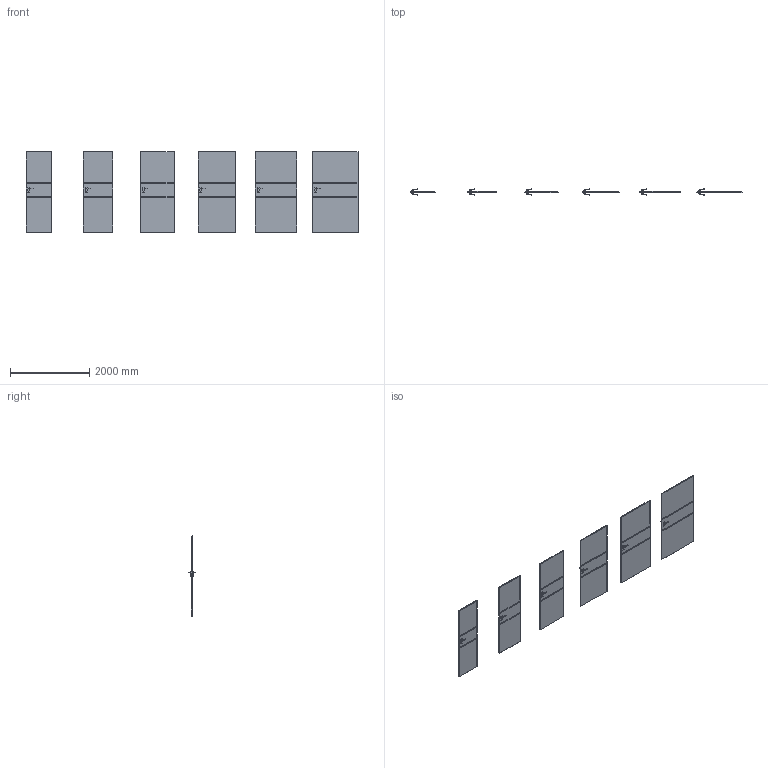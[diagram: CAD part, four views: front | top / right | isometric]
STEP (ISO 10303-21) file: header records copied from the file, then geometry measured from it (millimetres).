
FILE_DESCRIPTION(/* description */ (''),/* implementation_level */ '2;1');
FILE_NAME(/* name */ '049624_A_2-Skrzydło LINE model C.1_ polska norma _PN__ przylgowe..stp',/* time_stamp */ '2024-01-24T14:21:06+01:00',/* author */ (''),/* organization */ (''),/* preprocessor_version */ 'ST-DEVELOPER v16',/* originating_system */ 'SIEMENS PLM Software NX 11.0',/* authorisation */ '');
FILE_SCHEMA (('AUTOMOTIVE_DESIGN { 1 0 10303 214 3 1 1 1 }'));
Length unit declared in the file: millimetre
Products named in the file (1): bkni72E4C1A1roym
Bounding box: 8394 x 153.27 x 2030 mm (x, y, z)
Volume: 418559109.9 mm3; surface area: 24137789.9 mm2
Topology: 78 solids, 78 shells, 1560 faces, 3684 edges, 2160 vertices
Faces by surface type: plane 936, cylinder 264, bspline 192, sphere 168
Entity records: 49973 total; most frequent: CARTESIAN_POINT 15661, ORIENTED_EDGE 7032, DIRECTION 6614, EDGE_CURVE 3516, LINE 2436, VECTOR 2436, VERTEX_POINT 2160, AXIS2_PLACEMENT_3D 2089
